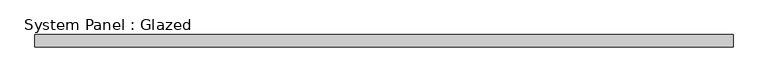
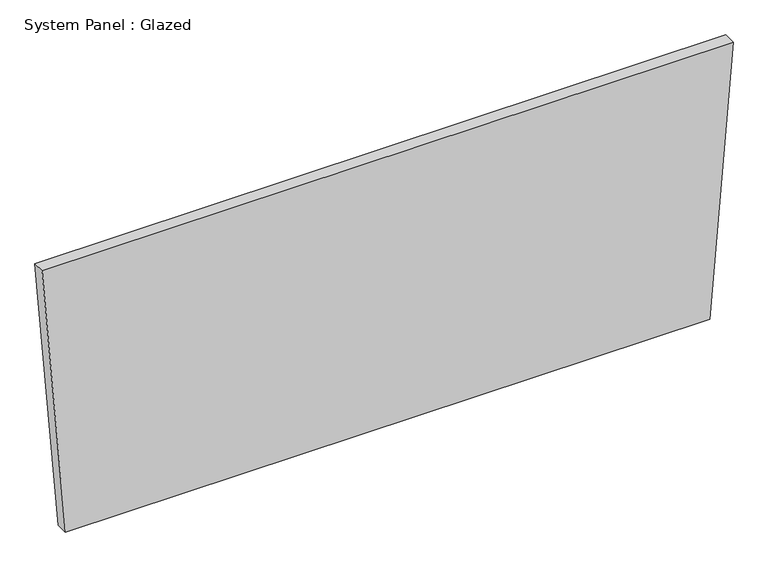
"""IFC4 building model written with IfcOpenShell, lengths in millimetres: plate geometry, System Panel : Glazed."""

from ifc_helpers import new_model, si_unit, frame, origin, place, context, project, spatial, polyline, outline, extrude, source, transform, mapped, element, save


def system_panel_glazed_a7bfc9ff(model_context):
    return source(origin(), model_context, "Body", "SweptSolid", [
        extrude(outline(polyline([(0.0, -658.8013987), (0.0, 658.8013987), (582.1493342, 706.6723692), (582.1493342, -706.6723692), (0.0, -658.8013987)])), frame((0.0, 19.05, 0.0), z_axis=(0.0, 1.0, 0.0), x_axis=(0.0, 0.0, 1.0)), (0.0, 0.0, 1.0), 25.4),
    ])


if __name__ == "__main__":
    model = new_model("IFC4")
    model_context = context("Model", 3, world=origin())
    ifc_project = project(units=[si_unit("LENGTHUNIT", "METRE", prefix="MILLI")], contexts=[model_context])
    site = spatial("IfcSite", under=ifc_project)
    building = spatial("IfcBuilding", under=site)
    placement = place(None, origin())
    system_panel_glazed_shape = system_panel_glazed_a7bfc9ff(model_context)
    element("IfcPlate", 1, ObjectType="System Panel : Glazed", at=placement, inside=building, context=model_context, shape_type="MappedRepresentation", body=[
        mapped(system_panel_glazed_shape, transform((0.0, 0.0, 0.0), x_axis=(1.0, 0.0, 0.0), y_axis=(0.0, 1.0, 0.0), z_axis=(0.0, 0.0, 1.0))),
    ])
    save(model, "model.ifc")
